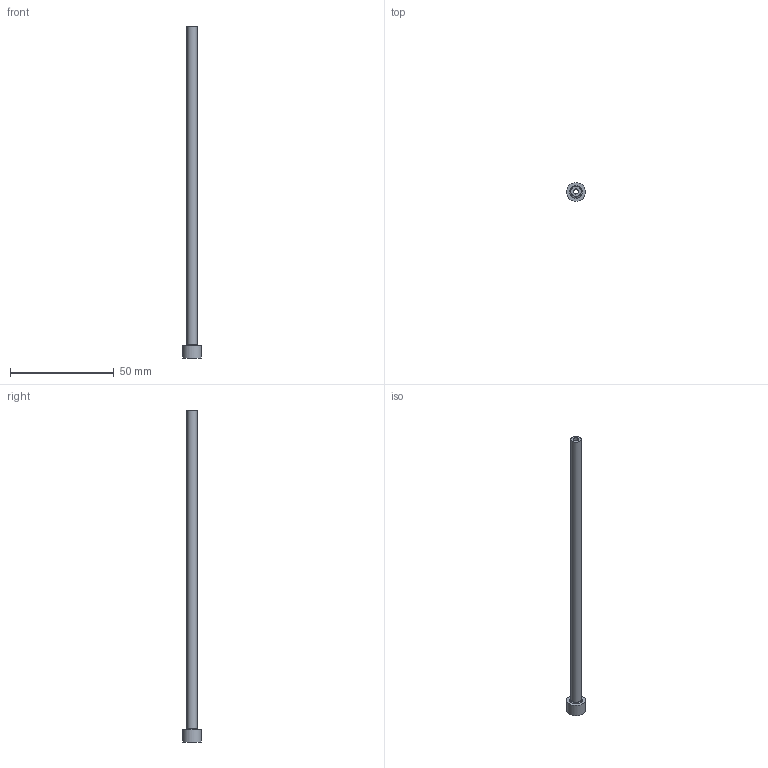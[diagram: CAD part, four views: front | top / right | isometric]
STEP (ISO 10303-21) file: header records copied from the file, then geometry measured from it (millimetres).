
FILE_DESCRIPTION (( 'STEP AP203' ), '1' );
FILE_NAME ('JES-25-5-160.STEP', '2017-06-24T19:35:47', ( '' ), ( '' ), 'SwSTEP 2.0', 'SolidWorks 2017', '' );
FILE_SCHEMA (( 'CONFIG_CONTROL_DESIGN' ));
Length unit declared in the file: millimetre
Products named in the file (1): JES-25-5-160
Bounding box: 9 x 9 x 160 mm (x, y, z)
Volume: 2436.6 mm3; surface area: 4088.6 mm2
Topology: 1 solids, 1 shells, 10 faces, 17 edges, 10 vertices
Faces by surface type: cylinder 4, plane 3, cone 2, torus 1
Full cylindrical faces by diameter (mm): 2.5 x1, 3 x1, 5 x1, 9 x1
Entity records: 285 total; most frequent: DIRECTION 42, CARTESIAN_POINT 31, AXIS2_PLACEMENT_3D 21, ORIENTED_EDGE 20, EDGE_LOOP 20, FACE_OUTER_BOUND 15, VERTEX_POINT 10, EDGE_CURVE 10
